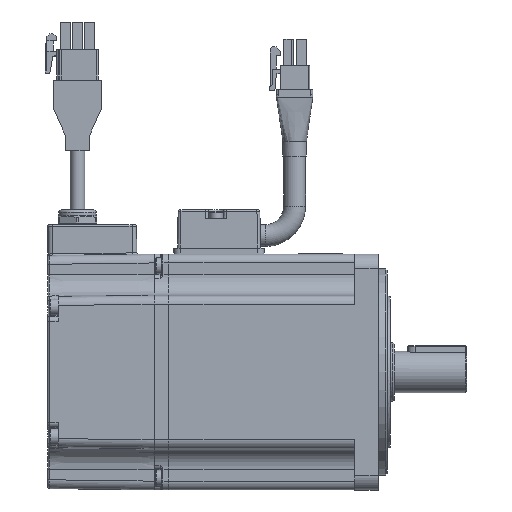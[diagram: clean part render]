
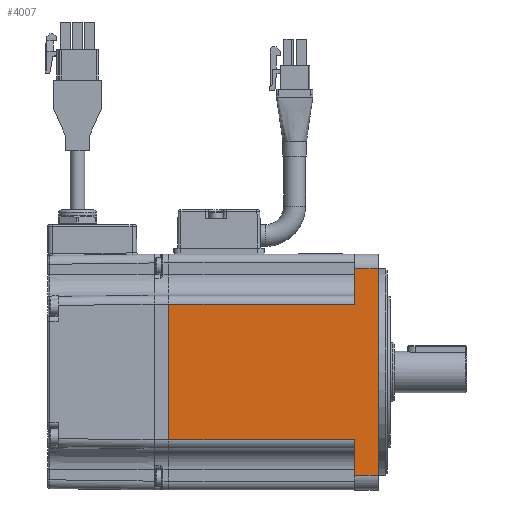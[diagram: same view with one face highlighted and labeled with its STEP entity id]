
A CAD part, left-side view. The second image highlights one B-rep face of the part: STEP entity #4007.
In plain terms, the highlighted planar face has unit normal (-1, 0, 0).
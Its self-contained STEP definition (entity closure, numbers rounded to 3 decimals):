
#4007 = ADVANCED_FACE( '', ( #8789 ), #8790, .T. );
#8789 = FACE_OUTER_BOUND( '', #16680, .T. );
#8790 = PLANE( '', #16681 );
#16680 = EDGE_LOOP( '', ( #30196, #30197, #30198, #30199, #30200, #30201, #30202, #30203 ) );
#16681 = AXIS2_PLACEMENT_3D( '', #30204, #30205, #30206 );
#30196 = ORIENTED_EDGE( '', *, *, #45405, .F. );
#30197 = ORIENTED_EDGE( '', *, *, #45406, .T. );
#30198 = ORIENTED_EDGE( '', *, *, #45407, .F. );
#30199 = ORIENTED_EDGE( '', *, *, #44120, .T. );
#30200 = ORIENTED_EDGE( '', *, *, #44400, .F. );
#30201 = ORIENTED_EDGE( '', *, *, #45408, .T. );
#30202 = ORIENTED_EDGE( '', *, *, #45409, .F. );
#30203 = ORIENTED_EDGE( '', *, *, #45410, .T. );
#30204 = CARTESIAN_POINT( '', ( -40., 197.846, 40. ) );
#30205 = DIRECTION( '', ( -1., 0., 0. ) );
#30206 = DIRECTION( '', ( 0., 0., 1. ) );
#44120 = EDGE_CURVE( '', #51911, #51908, #51912, .T. );
#44400 = EDGE_CURVE( '', #52377, #51908, #52379, .T. );
#45405 = EDGE_CURVE( '', #54007, #54008, #54009, .T. );
#45406 = EDGE_CURVE( '', #54007, #54010, #54011, .F. );
#45407 = EDGE_CURVE( '', #51911, #54010, #54012, .T. );
#45408 = EDGE_CURVE( '', #52377, #54013, #54014, .F. );
#45409 = EDGE_CURVE( '', #54015, #54013, #54016, .T. );
#45410 = EDGE_CURVE( '', #54015, #54008, #54017, .T. );
#51908 = VERTEX_POINT( '', #62768 );
#51911 = VERTEX_POINT( '', #62771 );
#51912 = LINE( '', #62772, #62773 );
#52377 = VERTEX_POINT( '', #63664 );
#52379 = LINE( '', #63666, #63667 );
#54007 = VERTEX_POINT( '', #66456 );
#54008 = VERTEX_POINT( '', #66457 );
#54009 = LINE( '', #66458, #66459 );
#54010 = VERTEX_POINT( '', #66460 );
#54011 = LINE( '', #66461, #66462 );
#54012 = LINE( '', #66463, #66464 );
#54013 = VERTEX_POINT( '', #66465 );
#54014 = LINE( '', #66466, #66467 );
#54015 = VERTEX_POINT( '', #66468 );
#54016 = LINE( '', #66469, #66470 );
#54017 = LINE( '', #66471, #66472 );
#62768 = CARTESIAN_POINT( '', ( -40., 0.81, -35. ) );
#62771 = CARTESIAN_POINT( '', ( -40., 8.81, -35. ) );
#62772 = CARTESIAN_POINT( '', ( -40., 197.846, -35. ) );
#62773 = VECTOR( '', #78784, 1000. );
#63664 = CARTESIAN_POINT( '', ( -40., 0.81, 35. ) );
#63666 = CARTESIAN_POINT( '', ( -40., 0.81, 40. ) );
#63667 = VECTOR( '', #79114, 1000. );
#66456 = CARTESIAN_POINT( '', ( -40., 71.81, -23. ) );
#66457 = CARTESIAN_POINT( '', ( -40., 71.81, 23. ) );
#66458 = CARTESIAN_POINT( '', ( -40., 71.81, 40. ) );
#66459 = VECTOR( '', #80257, 1000. );
#66460 = CARTESIAN_POINT( '', ( -40., 8.81, -23. ) );
#66461 = CARTESIAN_POINT( '', ( -40., 197.846, -23. ) );
#66462 = VECTOR( '', #80258, 1000. );
#66463 = CARTESIAN_POINT( '', ( -40., 8.81, 40. ) );
#66464 = VECTOR( '', #80259, 1000. );
#66465 = CARTESIAN_POINT( '', ( -40., 8.81, 35. ) );
#66466 = CARTESIAN_POINT( '', ( -40., 197.846, 35. ) );
#66467 = VECTOR( '', #80260, 1000. );
#66468 = CARTESIAN_POINT( '', ( -40., 8.81, 23. ) );
#66469 = CARTESIAN_POINT( '', ( -40., 8.81, 40. ) );
#66470 = VECTOR( '', #80261, 1000. );
#66471 = CARTESIAN_POINT( '', ( -40., 197.846, 23. ) );
#66472 = VECTOR( '', #80262, 1000. );
#78784 = DIRECTION( '', ( 0., -1., 0. ) );
#79114 = DIRECTION( '', ( 0., 0., -1. ) );
#80257 = DIRECTION( '', ( 0., 0., 1. ) );
#80258 = DIRECTION( '', ( 0., 1., 0. ) );
#80259 = DIRECTION( '', ( 0., 0., 1. ) );
#80260 = DIRECTION( '', ( 0., -1., 0. ) );
#80261 = DIRECTION( '', ( 0., 0., 1. ) );
#80262 = DIRECTION( '', ( 0., 1., 0. ) );
